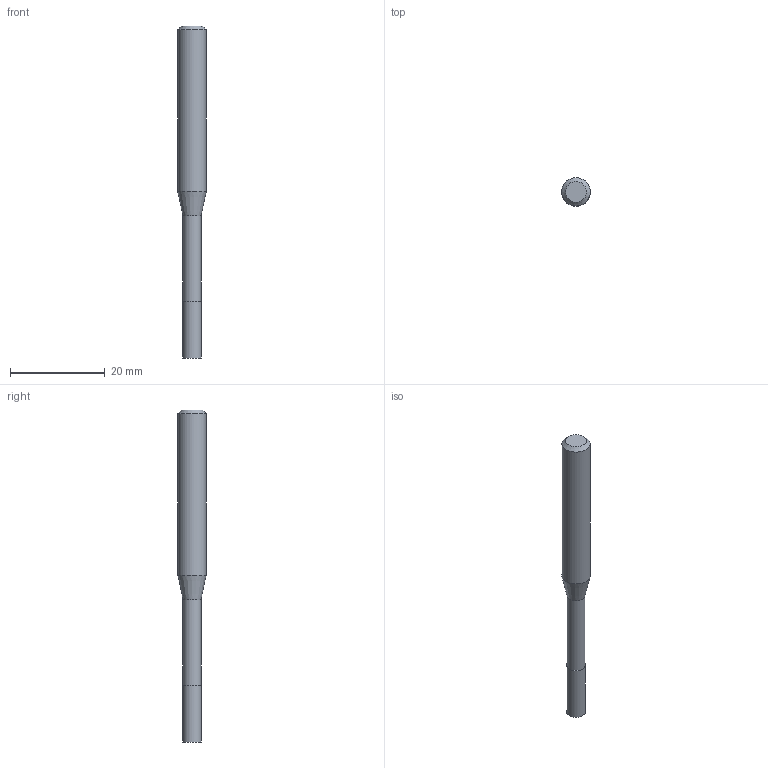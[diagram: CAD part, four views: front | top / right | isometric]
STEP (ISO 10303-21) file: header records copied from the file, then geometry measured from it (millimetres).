
FILE_DESCRIPTION((''),'2;1');
FILE_NAME('C:\Users\nsx150\Desktop\RSE230_20210427\01-00644-04030 RSE230 D4X12X30.step','2021-05-07T14:54:13',(''),(''),'STEP Write','Mastercam 2021 ... CNC Software, Inc.','');
FILE_SCHEMA(('AUTOMOTIVE_DESIGN'));
Length unit declared in the file: millimetre
Products named in the file (1): None
Bounding box: 6 x 6 x 70 mm (x, y, z)
Volume: 1433.3 mm3; surface area: 1158.6 mm2
Topology: 2 solids, 2 shells, 9 faces, 12 edges, 7 vertices
Faces by surface type: plane 4, cylinder 3, cone 2
Full cylindrical faces by diameter (mm): 3.8 x1, 4 x1, 6 x1
Entity records: 211 total; most frequent: DIRECTION 36, CARTESIAN_POINT 25, AXIS2_PLACEMENT_3D 18, ORIENTED_EDGE 14, EDGE_LOOP 14, STYLED_ITEM 12, ADVANCED_FACE 9, FACE_BOUND 8
